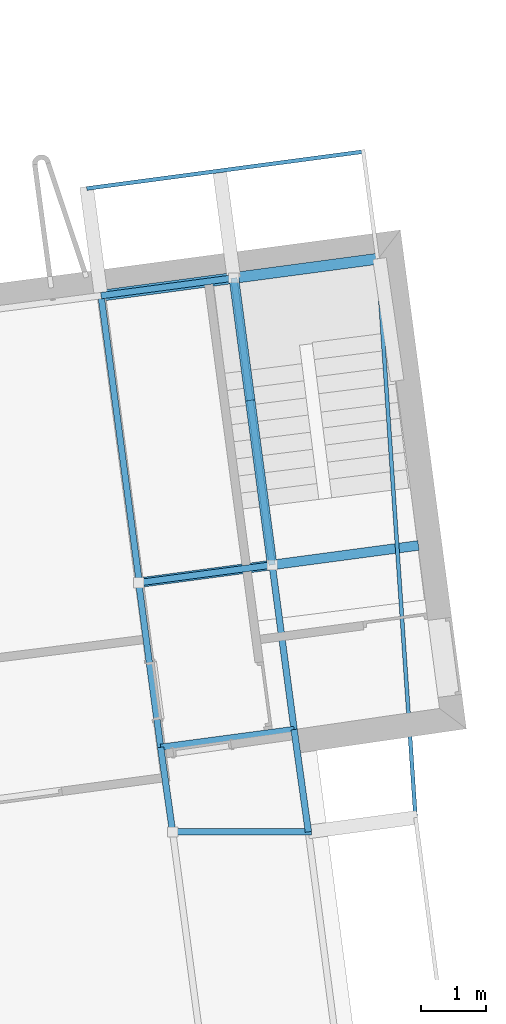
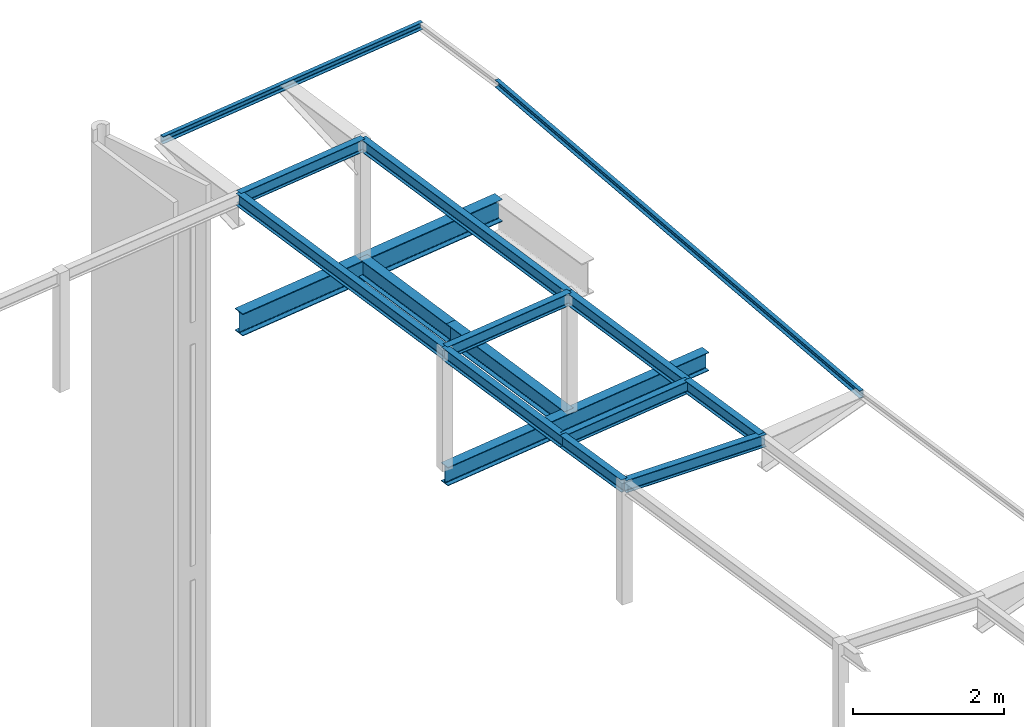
# One storey, part 17 of 40: 16 beams.
"""IFC2X3 building model written with IfcOpenShell, lengths in metres."""

import ifcopenshell
import ifcopenshell.guid

model = None  # the IFC model being written
_history = None  # IfcOwnerHistory: only IFC2X3 demands one
_inside = {}  # id of a spatial element -> (the spatial element, [elements in it])
_under = {}  # id of a project, library or spatial element -> (it, [spatial elements below it])
_declared = {}  # id of a project -> (the project, [libraries it declares])
_typed = {}  # id of a type object -> (the type object, [elements of that type])
_made_of = {}  # id of a material, layer set ... -> (it, [elements and type objects made of it])


def new_model(schema):
    """Start an empty IFC model of exactly this schema.

    Asked for "IFC4X3", IfcOpenShell would pick the latest addendum, in which some entities
    have other attributes; the version numbers below select the first issue.
    IFC2X3 requires an IfcOwnerHistory on every rooted entity: one is made here for all.
    """
    global model, _history
    if schema == "IFC4X3":
        model = ifcopenshell.file(schema_version=(4, 3, 0, 0))
    else:
        model = ifcopenshell.file(schema=schema)
    _inside.clear()
    _under.clear()
    _declared.clear()
    _typed.clear()
    _made_of.clear()
    _history = None
    if model.schema == "IFC2X3":
        org = make("IfcOrganization", Name="unknown")
        user = make(
            "IfcPersonAndOrganization",
            ThePerson=make("IfcPerson", FamilyName="unknown"),
            TheOrganization=org,
        )
        app = make(
            "IfcApplication",
            ApplicationDeveloper=org,
            Version="unknown",
            ApplicationFullName="unknown",
            ApplicationIdentifier="unknown",
        )
        _history = make(
            "IfcOwnerHistory",
            OwningUser=user,
            OwningApplication=app,
            ChangeAction="ADDED",
            CreationDate=0,
        )
    return model


def make(cls, **values):
    """One entity of the class cls with the attributes given. An attribute that is None is left unset."""
    return model.create_entity(
        cls, **{name: value for name, value in values.items() if value is not None}
    )


def entity(cls, *values):
    """Any entity or typed value of the class cls, its attributes in the order of the schema. None: left unset."""
    e = model.create_entity(cls)
    for i, value in enumerate(values):
        if value is not None:
            e[i] = value
    return e


def rooted(cls, **values):
    """An entity with a GlobalId (a new one), such as an element, a storey or a relation."""
    return make(cls, GlobalId=ifcopenshell.guid.new(), OwnerHistory=_history, **values)


def si_unit(unit_type, name, prefix=None):
    """IfcSIUnit, for example si_unit("LENGTHUNIT", "METRE", prefix="MILLI")."""
    return make("IfcSIUnit", UnitType=unit_type, Prefix=prefix, Name=name)


def converted_unit(unit_type, name, factor, base, dimensions=None, offset=None):
    """IfcConversionBasedUnit, such as the inch: factor (a typed value) times the base unit."""
    return make(
        "IfcConversionBasedUnit"
        if offset is None
        else "IfcConversionBasedUnitWithOffset",
        ConversionOffset=offset,
        Dimensions=None
        if dimensions is None
        else entity("IfcDimensionalExponents", *dimensions),
        UnitType=unit_type,
        Name=name,
        ConversionFactor=make(
            "IfcMeasureWithUnit", ValueComponent=factor, UnitComponent=base
        ),
    )


def money_unit(currency):
    """IfcMonetaryUnit."""
    return make("IfcMonetaryUnit", Currency=currency)


def assignment(units):
    """IfcUnitAssignment: the units of a project."""
    return None if units is None else make("IfcUnitAssignment", Units=units)


def point(xyz):
    """IfcCartesianPoint."""
    return None if xyz is None else make("IfcCartesianPoint", Coordinates=xyz)


def direction(xyz):
    """IfcDirection."""
    return None if xyz is None else make("IfcDirection", DirectionRatios=xyz)


def frame(location, z_axis=None, x_axis=None):
    """IfcAxis2Placement3D, a coordinate frame: its origin and axes. An axis left out is left unset."""
    return make(
        "IfcAxis2Placement3D",
        Location=point(location),
        Axis=direction(z_axis),
        RefDirection=direction(x_axis),
    )


def frame_2d(location, x_axis=None):
    """IfcAxis2Placement2D, a coordinate frame in the plane: its origin and x axis."""
    return make(
        "IfcAxis2Placement2D", Location=point(location), RefDirection=direction(x_axis)
    )


def origin_with_axes():
    """The frame at (0, 0, 0) with the z axis (0, 0, 1) and the x axis (1, 0, 0) written out."""
    return frame((0.0, 0.0, 0.0), z_axis=(0.0, 0.0, 1.0), x_axis=(1.0, 0.0, 0.0))


def place(relative_to, where):
    """IfcLocalPlacement: puts the frame where relative to a parent placement (None: the world)."""
    return make(
        "IfcLocalPlacement", PlacementRelTo=relative_to, RelativePlacement=where
    )


def context(
    kind, dimensions, precision=None, world=None, true_north=None, identifier=None
):
    """IfcGeometricRepresentationContext, for example the 3D "Model" context."""
    return make(
        "IfcGeometricRepresentationContext",
        ContextIdentifier=identifier,
        ContextType=kind,
        CoordinateSpaceDimension=dimensions,
        Precision=precision,
        WorldCoordinateSystem=world,
        TrueNorth=true_north,
    )


def subcontext(parent, identifier, kind, view, scale=None):
    """IfcGeometricRepresentationSubContext, for example "Body" below "Model"."""
    return make(
        "IfcGeometricRepresentationSubContext",
        ContextIdentifier=identifier,
        ContextType=kind,
        ParentContext=parent,
        TargetScale=scale,
        TargetView=view,
    )


def project(units=None, contexts=None):
    """IfcProject with its units and contexts."""
    return rooted(
        "IfcProject",
        Name="project",
        RepresentationContexts=contexts,
        UnitsInContext=assignment(units),
    )


def spatial(cls, under=None, at=None, **own):
    """A site, building, storey or space (cls), placed at a placement, below another one or the project."""
    s = rooted(cls, ObjectPlacement=at, **own)
    if under is not None:
        _under.setdefault(under.id(), (under, []))[1].append(s)
    return s


def polyline(points):
    """IfcPolyline through the points."""
    return make("IfcPolyline", Points=[point(p) for p in points])


def circle_curve(where, radius):
    """IfcCircle in the frame where."""
    return make("IfcCircle", Position=where, Radius=radius)


def parameter(value):
    """IfcParameterValue: where a trimmed curve begins or ends, as a parameter of its basis curve."""
    return model.create_entity("IfcParameterValue", value)


def trimmed(basis, trim1, trim2, sense, master):
    """IfcTrimmedCurve: the piece of a basis curve between two trims."""
    return make(
        "IfcTrimmedCurve",
        BasisCurve=basis,
        Trim1=trim1,
        Trim2=trim2,
        SenseAgreement=sense,
        MasterRepresentation=master,
    )


def segment(curve, same_sense, transition):
    """IfcCompositeCurveSegment."""
    return make(
        "IfcCompositeCurveSegment",
        Transition=transition,
        SameSense=same_sense,
        ParentCurve=curve,
    )


def composite_curve(segments, self_intersect=None):
    """IfcCompositeCurve: segments joined end to end."""
    return make("IfcCompositeCurve", Segments=segments, SelfIntersect=self_intersect)


def outline(outer, holes=None, kind="AREA"):
    """IfcArbitraryClosedProfileDef: a profile drawn as a closed curve; with holes, ...WithVoids."""
    if holes is None:
        return make("IfcArbitraryClosedProfileDef", ProfileType=kind, OuterCurve=outer)
    return make(
        "IfcArbitraryProfileDefWithVoids",
        ProfileType=kind,
        OuterCurve=outer,
        InnerCurves=holes,
    )


def extrude(swept, where, along, depth):
    """IfcExtrudedAreaSolid: the profile swept, set in the frame where, extruded along a direction by depth."""
    return make(
        "IfcExtrudedAreaSolid",
        SweptArea=swept,
        Position=where,
        ExtrudedDirection=direction(along),
        Depth=depth,
    )


def shape(context_of_items, identifier, shape_type, items):
    """IfcShapeRepresentation: the items that make up one representation, for example the "Body"."""
    return make(
        "IfcShapeRepresentation",
        ContextOfItems=context_of_items,
        RepresentationIdentifier=identifier,
        RepresentationType=shape_type,
        Items=items,
    )


def material(Name=None, Category=None):
    """IfcMaterial."""
    return make("IfcMaterial", Name=Name, Category=Category)


def made_of(thing, what):
    """Note that an element or type object is made of a material, layer set ...; save() writes the relation."""
    if what is not None:
        _made_of.setdefault(what.id(), (what, []))[1].append(thing)
    return thing


def type_object(cls, material=None, **own):
    """A type object (cls), such as IfcWallType, which elements share."""
    return made_of(rooted(cls, **own), material)


def element(
    cls,
    number,
    at=None,
    inside=None,
    cuts=None,
    type_object=None,
    material=None,
    context=None,
    identifier="Body",
    shape_type=None,
    held_by="IfcProductDefinitionShape",
    body=None,
    shapes=None,
    **own,
):
    """One element of the class cls, such as IfcWall. Its Tag is "e" and its number.

    at: its placement. inside: the storey or other place that contains it. cuts: it is an
    opening in that element (IfcRelVoidsElement). A single representation is given by context,
    identifier, shape_type and body (its items); several are given by shapes. held_by: the class
    of the entity that holds the representations. save() writes the other relations.
    """
    e = rooted(cls, Tag="e%d" % number, ObjectPlacement=at, **own)
    if body is not None:
        shapes = [shape(context, identifier, shape_type, body)]
    if shapes is not None:
        e.Representation = make(held_by, Representations=shapes)
    if inside is not None:
        _inside.setdefault(inside.id(), (inside, []))[1].append(e)
    if cuts is not None:
        rooted(
            "IfcRelVoidsElement", RelatingBuildingElement=cuts, RelatedOpeningElement=e
        )
    if type_object is not None:
        _typed.setdefault(type_object.id(), (type_object, []))[1].append(e)
    return made_of(e, material)


def aggregate(whole, parts):
    """IfcRelAggregates: a whole, such as a stair, and the parts it consists of."""
    return rooted("IfcRelAggregates", RelatingObject=whole, RelatedObjects=parts)


def save(model, path):
    """Write the relations noted so far, then the file.

    IfcRelAggregates (storeys below a building ...), IfcRelContainedInSpatialStructure (elements
    in a storey), IfcRelDefinesByType, IfcRelAssociatesMaterial and IfcRelDeclares: one each for
    every whole, place, type object, material and project.
    """
    for whole, parts in _under.values():
        aggregate(whole, parts)
    for where, things in _inside.values():
        rooted(
            "IfcRelContainedInSpatialStructure",
            RelatedElements=things,
            RelatingStructure=where,
        )
    for kind, things in _typed.values():
        rooted("IfcRelDefinesByType", RelatedObjects=things, RelatingType=kind)
    for what, things in _made_of.values():
        rooted("IfcRelAssociatesMaterial", RelatedObjects=things, RelatingMaterial=what)
    for by, libraries in _declared.values():
        rooted("IfcRelDeclares", RelatingContext=by, RelatedDefinitions=libraries)
    model.write(path)


model = new_model("IFC2X3")

# Units and contexts
model_context = context("Model", 3, precision=1e-05, world=origin_with_axes(), true_north=direction((0.0, 1.0)))
body_context = subcontext(model_context, "Body", "Model", "MODEL_VIEW")
ifc_project = project(units=[si_unit("LENGTHUNIT", "METRE"), si_unit("AREAUNIT", "SQUARE_METRE"), si_unit("VOLUMEUNIT", "CUBIC_METRE"), converted_unit("PLANEANGLEUNIT", "DEGREE", entity("IfcPlaneAngleMeasure", 0.0174532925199), si_unit("PLANEANGLEUNIT", "RADIAN"), dimensions=[0, 0, 0, 0, 0, 0, 0]), si_unit("SOLIDANGLEUNIT", "STERADIAN"), money_unit("EUR"), converted_unit("TIMEUNIT", "Year", entity("IfcTimeMeasure", 31556926.0), si_unit("TIMEUNIT", "SECOND"), dimensions=[0, 0, 0, 0, 0, 0, 0]), si_unit("MASSUNIT", "GRAM"), si_unit("THERMODYNAMICTEMPERATUREUNIT", "DEGREE_CELSIUS"), si_unit("LUMINOUSINTENSITYUNIT", "LUMEN")], contexts=[model_context])

# Site, building, storey
site_placement = place(None, origin_with_axes())
site = spatial("IfcSite", under=ifc_project, at=site_placement, Name="Undefined", CompositionType="ELEMENT")
building_placement = place(site_placement, origin_with_axes())
building = spatial("IfcBuilding", under=site, at=building_placement, Name="Undefined", CompositionType="ELEMENT")
storey_placement = place(building_placement, origin_with_axes())
storey = spatial("IfcBuildingStorey", under=building, at=storey_placement, Name="Rez de chauss\x8ee", CompositionType="ELEMENT", Elevation=0.0)

# Beams
ifc_material = material(Name="STEEL/S235JRG2 3386696625")
beam_type_1 = type_object("IfcBeamType", Name="IPE200", PredefinedType="NOTDEFINED")
beam_1_placement = place(storey_placement, frame((62.706684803, 26.886811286, 19.025), z_axis=(0.0, 0.0, 1.0), x_axis=(0.132256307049, -0.991215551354, 0.0)))
element("IfcBeam", 1, at=beam_1_placement, inside=storey, type_object=beam_type_1, material=ifc_material, Name="Poutre", ObjectType="BEAM", context=body_context, shape_type="SweptSolid", body=[
    extrude(outline(composite_curve([segment(polyline([(0.05, -0.1), (0.05, -0.0915), (0.0147999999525, -0.0915)]), True, "CONTINUOUS"), segment(trimmed(circle_curve(frame_2d((0.0147999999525, -0.0795), x_axis=(-1.0, 0.0)), 0.012), [point((0.0147999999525, -0.0915)), parameter(90.0)], [point((0.0027999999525, -0.0795)), parameter(0.0)], False, "CARTESIAN"), True, "CONTINUOUS"), segment(polyline([(0.0027999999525, -0.0795), (0.0027999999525, 0.0795)]), True, "CONTINUOUS"), segment(trimmed(circle_curve(frame_2d((0.0147999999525, 0.0795), x_axis=(0.0, 1.0)), 0.012), [point((0.0027999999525, 0.0795)), parameter(90.0)], [point((0.0147999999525, 0.0915)), parameter(0.0)], False, "CARTESIAN"), True, "CONTINUOUS"), segment(polyline([(0.0147999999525, 0.0915), (0.05, 0.0915), (0.05, 0.1), (-0.05, 0.1), (-0.05, 0.0915), (-0.0147999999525, 0.0915)]), True, "CONTINUOUS"), segment(trimmed(circle_curve(frame_2d((-0.0147999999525, 0.0795), x_axis=(1.0, 0.0)), 0.012), [point((-0.0147999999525, 0.0915)), parameter(90.0)], [point((-0.0027999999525, 0.0795)), parameter(0.0)], False, "CARTESIAN"), True, "CONTINUOUS"), segment(polyline([(-0.0027999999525, 0.0795), (-0.0027999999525, -0.0795)]), True, "CONTINUOUS"), segment(trimmed(circle_curve(frame_2d((-0.0147999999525, -0.0795), x_axis=(0.0, -1.0)), 0.012), [point((-0.0027999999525, -0.0795)), parameter(90.0)], [point((-0.0147999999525, -0.0915)), parameter(0.0)], False, "CARTESIAN"), True, "CONTINUOUS"), segment(polyline([(-0.0147999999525, -0.0915), (-0.05, -0.0915), (-0.05, -0.1), (0.05, -0.1)]), True, "CONTINUOUS")], self_intersect=False)), frame((0.0, 2.07, 0.0), z_axis=(0.0, -1.0, 0.0), x_axis=(1.0, 0.0, 0.0)), (0.0, 0.0, 1.0), 2.07),
])
beam_2_placement = place(storey_placement, frame((65.3501723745, 22.7262187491, 19.025), z_axis=(0.0, 0.0, 1.0), x_axis=(-0.991215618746, -0.132255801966, 0.0)))
element("IfcBeam", 2, at=beam_2_placement, inside=storey, type_object=beam_type_1, material=ifc_material, Name="Poutre", ObjectType="BEAM", context=body_context, shape_type="SweptSolid", body=[
    extrude(outline(composite_curve([segment(polyline([(0.05, -0.1), (0.05, -0.0915), (0.0147999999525, -0.0915)]), True, "CONTINUOUS"), segment(trimmed(circle_curve(frame_2d((0.0147999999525, -0.0795), x_axis=(-1.0, 0.0)), 0.012), [point((0.0147999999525, -0.0915)), parameter(90.0)], [point((0.0027999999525, -0.0795)), parameter(0.0)], False, "CARTESIAN"), True, "CONTINUOUS"), segment(polyline([(0.0027999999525, -0.0795), (0.0027999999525, 0.0795)]), True, "CONTINUOUS"), segment(trimmed(circle_curve(frame_2d((0.0147999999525, 0.0795), x_axis=(0.0, 1.0)), 0.012), [point((0.0027999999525, 0.0795)), parameter(90.0)], [point((0.0147999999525, 0.0915)), parameter(0.0)], False, "CARTESIAN"), True, "CONTINUOUS"), segment(polyline([(0.0147999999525, 0.0915), (0.05, 0.0915), (0.05, 0.1), (-0.05, 0.1), (-0.05, 0.0915), (-0.0147999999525, 0.0915)]), True, "CONTINUOUS"), segment(trimmed(circle_curve(frame_2d((-0.0147999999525, 0.0795), x_axis=(1.0, 0.0)), 0.012), [point((-0.0147999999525, 0.0915)), parameter(90.0)], [point((-0.0027999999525, 0.0795)), parameter(0.0)], False, "CARTESIAN"), True, "CONTINUOUS"), segment(polyline([(-0.0027999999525, 0.0795), (-0.0027999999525, -0.0795)]), True, "CONTINUOUS"), segment(trimmed(circle_curve(frame_2d((-0.0147999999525, -0.0795), x_axis=(0.0, -1.0)), 0.012), [point((-0.0027999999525, -0.0795)), parameter(90.0)], [point((-0.0147999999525, -0.0915)), parameter(0.0)], False, "CARTESIAN"), True, "CONTINUOUS"), segment(polyline([(-0.0147999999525, -0.0915), (-0.05, -0.0915), (-0.05, -0.1), (0.05, -0.1)]), True, "CONTINUOUS")], self_intersect=False)), frame((0.0, 2.56533742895, 0.0), z_axis=(0.0, -1.0, 0.0), x_axis=(1.0, 0.0, 0.0)), (0.0, 0.0, 1.0), 2.56533742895),
])
beam_3_placement = place(storey_placement, frame((63.8122512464, 18.6009907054, 19.025), z_axis=(0.0, 0.0, 1.0), x_axis=(0.000142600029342, -0.999999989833, 0.0)))
element("IfcBeam", 3, at=beam_3_placement, inside=storey, type_object=beam_type_1, material=ifc_material, Name="Poutre", ObjectType="BEAM", context=body_context, shape_type="SweptSolid", body=[
    extrude(outline(composite_curve([segment(polyline([(0.05, -0.1), (0.05, -0.0915), (0.0147999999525, -0.0915)]), True, "CONTINUOUS"), segment(trimmed(circle_curve(frame_2d((0.0147999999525, -0.0795), x_axis=(-1.0, 0.0)), 0.012), [point((0.0147999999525, -0.0915)), parameter(90.0)], [point((0.0027999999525, -0.0795)), parameter(0.0)], False, "CARTESIAN"), True, "CONTINUOUS"), segment(polyline([(0.0027999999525, -0.0795), (0.0027999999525, 0.0795)]), True, "CONTINUOUS"), segment(trimmed(circle_curve(frame_2d((0.0147999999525, 0.0795), x_axis=(0.0, 1.0)), 0.012), [point((0.0027999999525, 0.0795)), parameter(90.0)], [point((0.0147999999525, 0.0915)), parameter(0.0)], False, "CARTESIAN"), True, "CONTINUOUS"), segment(polyline([(0.0147999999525, 0.0915), (0.05, 0.0915), (0.05, 0.1), (-0.05, 0.1), (-0.05, 0.0915), (-0.0147999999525, 0.0915)]), True, "CONTINUOUS"), segment(trimmed(circle_curve(frame_2d((-0.0147999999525, 0.0795), x_axis=(1.0, 0.0)), 0.012), [point((-0.0147999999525, 0.0915)), parameter(90.0)], [point((-0.0027999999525, 0.0795)), parameter(0.0)], False, "CARTESIAN"), True, "CONTINUOUS"), segment(polyline([(-0.0027999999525, 0.0795), (-0.0027999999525, -0.0795)]), True, "CONTINUOUS"), segment(trimmed(circle_curve(frame_2d((-0.0147999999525, -0.0795), x_axis=(0.0, -1.0)), 0.012), [point((-0.0027999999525, -0.0795)), parameter(90.0)], [point((-0.0147999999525, -0.0915)), parameter(0.0)], False, "CARTESIAN"), True, "CONTINUOUS"), segment(polyline([(-0.0147999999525, -0.0915), (-0.05, -0.0915), (-0.05, -0.1), (0.05, -0.1)]), True, "CONTINUOUS")], self_intersect=False)), frame((0.0, 2.14601857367, 0.0), z_axis=(0.0, -1.0, 0.0), x_axis=(1.0, 0.0, 0.0)), (0.0, 0.0, 1.0), 2.14601857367),
])
beam_4_placement = place(storey_placement, frame((63.2983562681, 22.4524475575, 19.025), z_axis=(0.0, 0.0, 1.0), x_axis=(0.132256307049, -0.991215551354, 0.0)))
element("IfcBeam", 4, at=beam_4_placement, inside=storey, type_object=beam_type_1, material=ifc_material, Name="Poutre", ObjectType="BEAM", context=body_context, shape_type="SweptSolid", body=[
    extrude(outline(composite_curve([segment(polyline([(0.05, -0.1), (0.05, -0.0915), (0.0147999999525, -0.0915)]), True, "CONTINUOUS"), segment(trimmed(circle_curve(frame_2d((0.0147999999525, -0.0795), x_axis=(-1.0, 0.0)), 0.012), [point((0.0147999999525, -0.0915)), parameter(90.0)], [point((0.0027999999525, -0.0795)), parameter(0.0)], False, "CARTESIAN"), True, "CONTINUOUS"), segment(polyline([(0.0027999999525, -0.0795), (0.0027999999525, 0.0795)]), True, "CONTINUOUS"), segment(trimmed(circle_curve(frame_2d((0.0147999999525, 0.0795), x_axis=(0.0, 1.0)), 0.012), [point((0.0027999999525, 0.0795)), parameter(90.0)], [point((0.0147999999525, 0.0915)), parameter(0.0)], False, "CARTESIAN"), True, "CONTINUOUS"), segment(polyline([(0.0147999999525, 0.0915), (0.05, 0.0915), (0.05, 0.1), (-0.05, 0.1), (-0.05, 0.0915), (-0.0147999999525, 0.0915)]), True, "CONTINUOUS"), segment(trimmed(circle_curve(frame_2d((-0.0147999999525, 0.0795), x_axis=(1.0, 0.0)), 0.012), [point((-0.0147999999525, 0.0915)), parameter(90.0)], [point((-0.0027999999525, 0.0795)), parameter(0.0)], False, "CARTESIAN"), True, "CONTINUOUS"), segment(polyline([(-0.0027999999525, 0.0795), (-0.0027999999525, -0.0795)]), True, "CONTINUOUS"), segment(trimmed(circle_curve(frame_2d((-0.0147999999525, -0.0795), x_axis=(0.0, -1.0)), 0.012), [point((-0.0027999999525, -0.0795)), parameter(90.0)], [point((-0.0147999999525, -0.0915)), parameter(0.0)], False, "CARTESIAN"), True, "CONTINUOUS"), segment(polyline([(-0.0147999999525, -0.0915), (-0.05, -0.0915), (-0.05, -0.1), (0.05, -0.1)]), True, "CONTINUOUS")], self_intersect=False)), frame((0.0, 2.07, 0.0), z_axis=(0.0, -1.0, 0.0), x_axis=(1.0, 0.0, 0.0)), (0.0, 0.0, 1.0), 2.07),
])
for number, where, z_axis, x_axis, name in (
    (5, (64.7585009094, 27.1605824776, 19.025), (0.0, 0.0, 1.0), (-0.991215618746, -0.132255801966, 0.0), "Poutre"),
    (6, (62.706684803, 26.886811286, 19.025), (0.0, 0.0, 1.0), (-0.991215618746, -0.132255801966, 0.0), "Poutre"),
):
    element("IfcBeam", number, at=place(storey_placement, frame(where, z_axis=z_axis, x_axis=x_axis)), inside=storey, type_object=beam_type_1, material=ifc_material, Name=name, ObjectType="BEAM", context=body_context, shape_type="SweptSolid", body=[
        extrude(outline(composite_curve([segment(polyline([(0.05, -0.1), (0.05, -0.0915), (0.0147999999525, -0.0915)]), True, "CONTINUOUS"), segment(trimmed(circle_curve(frame_2d((0.0147999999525, -0.0795), x_axis=(-1.0, 0.0)), 0.012), [point((0.0147999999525, -0.0915)), parameter(90.0)], [point((0.0027999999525, -0.0795)), parameter(0.0)], False, "CARTESIAN"), True, "CONTINUOUS"), segment(polyline([(0.0027999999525, -0.0795), (0.0027999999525, 0.0795)]), True, "CONTINUOUS"), segment(trimmed(circle_curve(frame_2d((0.0147999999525, 0.0795), x_axis=(0.0, 1.0)), 0.012), [point((0.0027999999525, 0.0795)), parameter(90.0)], [point((0.0147999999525, 0.0915)), parameter(0.0)], False, "CARTESIAN"), True, "CONTINUOUS"), segment(polyline([(0.0147999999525, 0.0915), (0.05, 0.0915), (0.05, 0.1), (-0.05, 0.1), (-0.05, 0.0915), (-0.0147999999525, 0.0915)]), True, "CONTINUOUS"), segment(trimmed(circle_curve(frame_2d((-0.0147999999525, 0.0795), x_axis=(1.0, 0.0)), 0.012), [point((-0.0147999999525, 0.0915)), parameter(90.0)], [point((-0.0027999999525, 0.0795)), parameter(0.0)], False, "CARTESIAN"), True, "CONTINUOUS"), segment(polyline([(-0.0027999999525, 0.0795), (-0.0027999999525, -0.0795)]), True, "CONTINUOUS"), segment(trimmed(circle_curve(frame_2d((-0.0147999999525, -0.0795), x_axis=(0.0, -1.0)), 0.012), [point((-0.0027999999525, -0.0795)), parameter(90.0)], [point((-0.0147999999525, -0.0915)), parameter(0.0)], False, "CARTESIAN"), True, "CONTINUOUS"), segment(polyline([(-0.0147999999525, -0.0915), (-0.05, -0.0915), (-0.05, -0.1), (0.05, -0.1)]), True, "CONTINUOUS")], self_intersect=False)), frame((0.0, 4.47366257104, 0.0), z_axis=(0.0, -1.0, 0.0), x_axis=(1.0, 0.0, 0.0)), (0.0, 0.0, 1.0), 4.47366257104),
    ])
beam_5_placement = place(storey_placement, frame((63.8122512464, 18.6009907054, 19.025), z_axis=(0.0, 0.0, 1.0), x_axis=(0.990148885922, 0.140018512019, 0.0)))
element("IfcBeam", 7, at=beam_5_placement, inside=storey, type_object=beam_type_1, material=ifc_material, Name="Poutre", ObjectType="BEAM", context=body_context, shape_type="SweptSolid", body=[
    extrude(outline(composite_curve([segment(polyline([(0.05, -0.1), (0.05, -0.0915), (0.0147999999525, -0.0915)]), True, "CONTINUOUS"), segment(trimmed(circle_curve(frame_2d((0.0147999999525, -0.0795), x_axis=(-1.0, 0.0)), 0.012), [point((0.0147999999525, -0.0915)), parameter(90.0)], [point((0.0027999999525, -0.0795)), parameter(0.0)], False, "CARTESIAN"), True, "CONTINUOUS"), segment(polyline([(0.0027999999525, -0.0795), (0.0027999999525, 0.0795)]), True, "CONTINUOUS"), segment(trimmed(circle_curve(frame_2d((0.0147999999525, 0.0795), x_axis=(0.0, 1.0)), 0.012), [point((0.0027999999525, 0.0795)), parameter(90.0)], [point((0.0147999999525, 0.0915)), parameter(0.0)], False, "CARTESIAN"), True, "CONTINUOUS"), segment(polyline([(0.0147999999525, 0.0915), (0.05, 0.0915), (0.05, 0.1), (-0.05, 0.1), (-0.05, 0.0915), (-0.0147999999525, 0.0915)]), True, "CONTINUOUS"), segment(trimmed(circle_curve(frame_2d((-0.0147999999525, 0.0795), x_axis=(1.0, 0.0)), 0.012), [point((-0.0147999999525, 0.0915)), parameter(90.0)], [point((-0.0027999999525, 0.0795)), parameter(0.0)], False, "CARTESIAN"), True, "CONTINUOUS"), segment(polyline([(-0.0027999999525, 0.0795), (-0.0027999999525, -0.0795)]), True, "CONTINUOUS"), segment(trimmed(circle_curve(frame_2d((-0.0147999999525, -0.0795), x_axis=(0.0, -1.0)), 0.012), [point((-0.0027999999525, -0.0795)), parameter(90.0)], [point((-0.0147999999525, -0.0915)), parameter(0.0)], False, "CARTESIAN"), True, "CONTINUOUS"), segment(polyline([(-0.0147999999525, -0.0915), (-0.05, -0.0915), (-0.05, -0.1), (0.05, -0.1)]), True, "CONTINUOUS")], self_intersect=False)), frame((0.0, 1.32029290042, 0.0), z_axis=(0.0, -1.0, 0.0), x_axis=(1.0, 0.0, 0.0)), (0.0, 0.0, 1.0), 1.32029290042),
])
beam_6_placement = place(storey_placement, frame((63.6273857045, 19.9082772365, 19.025), z_axis=(0.0, 0.0, 1.0), x_axis=(0.132256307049, -0.991215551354, 0.0)))
element("IfcBeam", 8, at=beam_6_placement, inside=storey, type_object=beam_type_1, material=ifc_material, Name="Poutre", ObjectType="BEAM", context=body_context, shape_type="SweptSolid", body=[
    extrude(outline(composite_curve([segment(polyline([(0.05, -0.1), (0.05, -0.0915), (0.0147999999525, -0.0915)]), True, "CONTINUOUS"), segment(trimmed(circle_curve(frame_2d((0.0147999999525, -0.0795), x_axis=(-1.0, 0.0)), 0.012), [point((0.0147999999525, -0.0915)), parameter(90.0)], [point((0.0027999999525, -0.0795)), parameter(0.0)], False, "CARTESIAN"), True, "CONTINUOUS"), segment(polyline([(0.0027999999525, -0.0795), (0.0027999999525, 0.0795)]), True, "CONTINUOUS"), segment(trimmed(circle_curve(frame_2d((0.0147999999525, 0.0795), x_axis=(0.0, 1.0)), 0.012), [point((0.0027999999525, 0.0795)), parameter(90.0)], [point((0.0147999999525, 0.0915)), parameter(0.0)], False, "CARTESIAN"), True, "CONTINUOUS"), segment(polyline([(0.0147999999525, 0.0915), (0.05, 0.0915), (0.05, 0.1), (-0.05, 0.1), (-0.05, 0.0915), (-0.0147999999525, 0.0915)]), True, "CONTINUOUS"), segment(trimmed(circle_curve(frame_2d((-0.0147999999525, 0.0795), x_axis=(1.0, 0.0)), 0.012), [point((-0.0147999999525, 0.0915)), parameter(90.0)], [point((-0.0027999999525, 0.0795)), parameter(0.0)], False, "CARTESIAN"), True, "CONTINUOUS"), segment(polyline([(-0.0027999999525, 0.0795), (-0.0027999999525, -0.0795)]), True, "CONTINUOUS"), segment(trimmed(circle_curve(frame_2d((-0.0147999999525, -0.0795), x_axis=(0.0, -1.0)), 0.012), [point((-0.0027999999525, -0.0795)), parameter(90.0)], [point((-0.0147999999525, -0.0915)), parameter(0.0)], False, "CARTESIAN"), True, "CONTINUOUS"), segment(polyline([(-0.0147999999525, -0.0915), (-0.05, -0.0915), (-0.05, -0.1), (0.05, -0.1)]), True, "CONTINUOUS")], self_intersect=False)), frame((0.0, 2.08034427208, 0.0), z_axis=(0.0, -1.0, 0.0), x_axis=(1.0, 0.0, 0.0)), (0.0, 0.0, 1.0), 2.08034427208),
])
beam_7_placement = place(storey_placement, frame((63.2881028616, 22.4510794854, 19.025), z_axis=(0.0, 0.0, 1.0), x_axis=(-0.991215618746, -0.132255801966, 0.0)))
element("IfcBeam", 9, at=beam_7_placement, inside=storey, type_object=beam_type_1, material=ifc_material, Name="Poutre", ObjectType="BEAM", context=body_context, shape_type="SweptSolid", body=[
    extrude(outline(composite_curve([segment(polyline([(0.05, -0.1), (0.05, -0.0915), (0.0147999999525, -0.0915)]), True, "CONTINUOUS"), segment(trimmed(circle_curve(frame_2d((0.0147999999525, -0.0795), x_axis=(-1.0, 0.0)), 0.012), [point((0.0147999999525, -0.0915)), parameter(90.0)], [point((0.0027999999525, -0.0795)), parameter(0.0)], False, "CARTESIAN"), True, "CONTINUOUS"), segment(polyline([(0.0027999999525, -0.0795), (0.0027999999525, 0.0795)]), True, "CONTINUOUS"), segment(trimmed(circle_curve(frame_2d((0.0147999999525, 0.0795), x_axis=(0.0, 1.0)), 0.012), [point((0.0027999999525, 0.0795)), parameter(90.0)], [point((0.0147999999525, 0.0915)), parameter(0.0)], False, "CARTESIAN"), True, "CONTINUOUS"), segment(polyline([(0.0147999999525, 0.0915), (0.05, 0.0915), (0.05, 0.1), (-0.05, 0.1), (-0.05, 0.0915), (-0.0147999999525, 0.0915)]), True, "CONTINUOUS"), segment(trimmed(circle_curve(frame_2d((-0.0147999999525, 0.0795), x_axis=(1.0, 0.0)), 0.012), [point((-0.0147999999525, 0.0915)), parameter(90.0)], [point((-0.0027999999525, 0.0795)), parameter(0.0)], False, "CARTESIAN"), True, "CONTINUOUS"), segment(polyline([(-0.0027999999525, 0.0795), (-0.0027999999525, -0.0795)]), True, "CONTINUOUS"), segment(trimmed(circle_curve(frame_2d((-0.0147999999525, -0.0795), x_axis=(0.0, -1.0)), 0.012), [point((-0.0027999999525, -0.0795)), parameter(90.0)], [point((-0.0147999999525, -0.0915)), parameter(0.0)], False, "CARTESIAN"), True, "CONTINUOUS"), segment(polyline([(-0.0147999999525, -0.0915), (-0.05, -0.0915), (-0.05, -0.1), (0.05, -0.1)]), True, "CONTINUOUS")], self_intersect=False)), frame((0.0, 2.56533742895, 0.0), z_axis=(0.0, -1.0, 0.0), x_axis=(1.0, 0.0, 0.0)), (0.0, 0.0, 1.0), 2.56533742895),
])
beam_8_placement = place(storey_placement, frame((65.6894552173, 20.1834165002, 19.025), z_axis=(0.0, 0.0, 1.0), x_axis=(-0.990375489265, -0.138406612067, 0.0)))
element("IfcBeam", 10, at=beam_8_placement, inside=storey, type_object=beam_type_1, material=ifc_material, Name="Poutre", ObjectType="BEAM", context=body_context, shape_type="SweptSolid", body=[
    extrude(outline(composite_curve([segment(polyline([(0.05, -0.1), (0.05, -0.0915), (0.0147999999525, -0.0915)]), True, "CONTINUOUS"), segment(trimmed(circle_curve(frame_2d((0.0147999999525, -0.0795), x_axis=(-1.0, 0.0)), 0.012), [point((0.0147999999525, -0.0915)), parameter(90.0)], [point((0.0027999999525, -0.0795)), parameter(0.0)], False, "CARTESIAN"), True, "CONTINUOUS"), segment(polyline([(0.0027999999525, -0.0795), (0.0027999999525, 0.0795)]), True, "CONTINUOUS"), segment(trimmed(circle_curve(frame_2d((0.0147999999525, 0.0795), x_axis=(0.0, 1.0)), 0.012), [point((0.0027999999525, 0.0795)), parameter(90.0)], [point((0.0147999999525, 0.0915)), parameter(0.0)], False, "CARTESIAN"), True, "CONTINUOUS"), segment(polyline([(0.0147999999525, 0.0915), (0.05, 0.0915), (0.05, 0.1), (-0.05, 0.1), (-0.05, 0.0915), (-0.0147999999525, 0.0915)]), True, "CONTINUOUS"), segment(trimmed(circle_curve(frame_2d((-0.0147999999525, 0.0795), x_axis=(1.0, 0.0)), 0.012), [point((-0.0147999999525, 0.0915)), parameter(90.0)], [point((-0.0027999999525, 0.0795)), parameter(0.0)], False, "CARTESIAN"), True, "CONTINUOUS"), segment(polyline([(-0.0027999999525, 0.0795), (-0.0027999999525, -0.0795)]), True, "CONTINUOUS"), segment(trimmed(circle_curve(frame_2d((-0.0147999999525, -0.0795), x_axis=(0.0, -1.0)), 0.012), [point((-0.0027999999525, -0.0795)), parameter(90.0)], [point((-0.0147999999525, -0.0915)), parameter(0.0)], False, "CARTESIAN"), True, "CONTINUOUS"), segment(polyline([(-0.0147999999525, -0.0915), (-0.05, -0.0915), (-0.05, -0.1), (0.05, -0.1)]), True, "CONTINUOUS")], self_intersect=False)), frame((0.0, 1.59750166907, 0.0), z_axis=(0.0, -1.0, 0.0), x_axis=(1.0, 0.0, 0.0)), (0.0, 0.0, 1.0), 1.59750166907),
])
beam_type_2 = type_object("IfcBeamType", Name="UPE120", PredefinedType="NOTDEFINED")
beam_9_placement = place(storey_placement, frame((62.4858162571, 28.5421411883, 19.045), z_axis=(0.0, 0.0, 1.0), x_axis=(0.132256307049, -0.991215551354, 0.0)))
element("IfcBeam", 11, at=beam_9_placement, inside=storey, type_object=beam_type_2, material=ifc_material, Name="Poutre", ObjectType="BEAM", context=body_context, shape_type="SweptSolid", body=[
    extrude(outline(composite_curve([segment(polyline([(-0.03, -0.06), (0.03, -0.06), (0.03, -0.052), (-0.013, -0.052)]), True, "CONTINUOUS"), segment(trimmed(circle_curve(frame_2d((-0.013, -0.04), x_axis=(-1.0, 0.0)), 0.012), [point((-0.013, -0.052)), parameter(90.0)], [point((-0.025, -0.04)), parameter(0.0)], False, "CARTESIAN"), True, "CONTINUOUS"), segment(polyline([(-0.025, -0.04), (-0.025, 0.04)]), True, "CONTINUOUS"), segment(trimmed(circle_curve(frame_2d((-0.013, 0.04), x_axis=(0.0, 1.0)), 0.012), [point((-0.025, 0.04)), parameter(90.0)], [point((-0.013, 0.052)), parameter(0.0)], False, "CARTESIAN"), True, "CONTINUOUS"), segment(polyline([(-0.013, 0.052), (0.03, 0.052), (0.03, 0.06), (-0.03, 0.06), (-0.03, -0.06)]), True, "CONTINUOUS")], self_intersect=False)), frame((0.0, 4.34000000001, 0.0), z_axis=(0.0, -1.0, 0.0), x_axis=(1.0, 0.0, 0.0)), (0.0, 0.0, 1.0), 4.34000000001),
])
beam_10_placement = place(storey_placement, frame((66.9786292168, 27.4587700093, 19.045), z_axis=(0.0, 0.0, 1.0), x_axis=(-0.997696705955, -0.0678327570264, 0.0)))
element("IfcBeam", 12, at=beam_10_placement, inside=storey, type_object=beam_type_2, material=ifc_material, Name="Poutre", ObjectType="BEAM", context=body_context, shape_type="SweptSolid", body=[
    extrude(outline(composite_curve([segment(polyline([(-0.03, -0.06), (0.03, -0.06), (0.03, -0.052), (-0.013, -0.052)]), True, "CONTINUOUS"), segment(trimmed(circle_curve(frame_2d((-0.013, -0.04), x_axis=(-1.0, 0.0)), 0.012), [point((-0.013, -0.052)), parameter(90.0)], [point((-0.025, -0.04)), parameter(0.0)], False, "CARTESIAN"), True, "CONTINUOUS"), segment(polyline([(-0.025, -0.04), (-0.025, 0.04)]), True, "CONTINUOUS"), segment(trimmed(circle_curve(frame_2d((-0.013, 0.04), x_axis=(0.0, 1.0)), 0.012), [point((-0.025, 0.04)), parameter(90.0)], [point((-0.013, 0.052)), parameter(0.0)], False, "CARTESIAN"), True, "CONTINUOUS"), segment(polyline([(-0.013, 0.052), (0.03, 0.052), (0.03, 0.06), (-0.03, 0.06), (-0.03, -0.06)]), True, "CONTINUOUS")], self_intersect=False)), frame((0.0, 8.65461286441, 0.0), z_axis=(0.0, -1.0, 0.0), x_axis=(1.0, 0.0, 0.0)), (0.0, 0.0, 1.0), 8.65461286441),
])
beam_type_3 = type_object("IfcBeamType", Name="IPE300", PredefinedType="NOTDEFINED")
beam_11_placement = place(storey_placement, frame((65.010898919, 25.2689506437, 17.05), z_axis=(0.0, 0.0, 1.0), x_axis=(0.991215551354, 0.132256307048, 0.0)))
element("IfcBeam", 13, at=beam_11_placement, inside=storey, type_object=beam_type_3, material=ifc_material, Name="BEAM", ObjectType="BEAM", context=body_context, shape_type="SweptSolid", body=[
    extrude(outline(composite_curve([segment(polyline([(0.075, -0.15), (0.075, -0.13930000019), (0.0185499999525, -0.13930000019)]), True, "CONTINUOUS"), segment(trimmed(circle_curve(frame_2d((0.0185499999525, -0.12430000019), x_axis=(-1.0, 0.0)), 0.015), [point((0.0185499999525, -0.13930000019)), parameter(90.0)], [point((0.0035499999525, -0.12430000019)), parameter(0.0)], False, "CARTESIAN"), True, "CONTINUOUS"), segment(polyline([(0.0035499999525, -0.12430000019), (0.0035499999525, 0.12430000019)]), True, "CONTINUOUS"), segment(trimmed(circle_curve(frame_2d((0.0185499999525, 0.12430000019), x_axis=(0.0, 1.0)), 0.015), [point((0.0035499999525, 0.12430000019)), parameter(90.0)], [point((0.0185499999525, 0.13930000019)), parameter(0.0)], False, "CARTESIAN"), True, "CONTINUOUS"), segment(polyline([(0.0185499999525, 0.13930000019), (0.075, 0.13930000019), (0.075, 0.15), (-0.075, 0.15), (-0.075, 0.13930000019), (-0.0185499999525, 0.13930000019)]), True, "CONTINUOUS"), segment(trimmed(circle_curve(frame_2d((-0.0185499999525, 0.12430000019), x_axis=(1.0, 0.0)), 0.015), [point((-0.0185499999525, 0.13930000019)), parameter(90.0)], [point((-0.0035499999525, 0.12430000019)), parameter(0.0)], False, "CARTESIAN"), True, "CONTINUOUS"), segment(polyline([(-0.0035499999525, 0.12430000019), (-0.0035499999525, -0.12430000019)]), True, "CONTINUOUS"), segment(trimmed(circle_curve(frame_2d((-0.0185499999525, -0.12430000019), x_axis=(0.0, -1.0)), 0.015), [point((-0.0035499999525, -0.12430000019)), parameter(90.0)], [point((-0.0185499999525, -0.13930000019)), parameter(0.0)], False, "CARTESIAN"), True, "CONTINUOUS"), segment(polyline([(-0.0185499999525, -0.13930000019), (-0.075, -0.13930000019), (-0.075, -0.15), (0.075, -0.15)]), True, "CONTINUOUS")], self_intersect=False)), frame((0.0, 1.90839611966, 0.0), z_axis=(0.0, -1.0, 0.0), x_axis=(1.0, 0.0, 0.0)), (0.0, 0.0, 1.0), 1.90839611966),
])
beam_12_placement = place(storey_placement, frame((65.3501723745, 22.726218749, 17.05), z_axis=(0.0, 0.0, 1.0), x_axis=(0.991215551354, 0.132256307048, 0.0)))
element("IfcBeam", 14, at=beam_12_placement, inside=storey, type_object=beam_type_3, material=ifc_material, Name="BEAM", ObjectType="BEAM", context=body_context, shape_type="SweptSolid", body=[
    extrude(outline(composite_curve([segment(polyline([(0.075, -0.15), (0.075, -0.13930000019), (0.0185499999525, -0.13930000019)]), True, "CONTINUOUS"), segment(trimmed(circle_curve(frame_2d((0.0185499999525, -0.12430000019), x_axis=(-1.0, 0.0)), 0.015), [point((0.0185499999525, -0.13930000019)), parameter(90.0)], [point((0.0035499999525, -0.12430000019)), parameter(0.0)], False, "CARTESIAN"), True, "CONTINUOUS"), segment(polyline([(0.0035499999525, -0.12430000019), (0.0035499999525, 0.12430000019)]), True, "CONTINUOUS"), segment(trimmed(circle_curve(frame_2d((0.0185499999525, 0.12430000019), x_axis=(0.0, 1.0)), 0.015), [point((0.0035499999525, 0.12430000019)), parameter(90.0)], [point((0.0185499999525, 0.13930000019)), parameter(0.0)], False, "CARTESIAN"), True, "CONTINUOUS"), segment(polyline([(0.0185499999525, 0.13930000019), (0.075, 0.13930000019), (0.075, 0.15), (-0.075, 0.15), (-0.075, 0.13930000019), (-0.0185499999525, 0.13930000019)]), True, "CONTINUOUS"), segment(trimmed(circle_curve(frame_2d((-0.0185499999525, 0.12430000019), x_axis=(1.0, 0.0)), 0.015), [point((-0.0185499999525, 0.13930000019)), parameter(90.0)], [point((-0.0035499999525, 0.12430000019)), parameter(0.0)], False, "CARTESIAN"), True, "CONTINUOUS"), segment(polyline([(-0.0035499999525, 0.12430000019), (-0.0035499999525, -0.12430000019)]), True, "CONTINUOUS"), segment(trimmed(circle_curve(frame_2d((-0.0185499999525, -0.12430000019), x_axis=(0.0, -1.0)), 0.015), [point((-0.0035499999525, -0.12430000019)), parameter(90.0)], [point((-0.0185499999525, -0.13930000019)), parameter(0.0)], False, "CARTESIAN"), True, "CONTINUOUS"), segment(polyline([(-0.0185499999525, -0.13930000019), (-0.075, -0.13930000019), (-0.075, -0.15), (0.075, -0.15)]), True, "CONTINUOUS")], self_intersect=False)), frame((0.0, 2.56526652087, 0.0), z_axis=(0.0, -1.0, 0.0), x_axis=(1.0, 0.0, 0.0)), (0.0, 0.0, 1.0), 2.56526652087),
])
beam_13_placement = place(storey_placement, frame((67.610489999, 23.0278100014, 17.05), z_axis=(0.0, 0.0, 1.0), x_axis=(-0.132256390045, 0.99121554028, 0.0)))
element("IfcBeam", 15, at=beam_13_placement, inside=storey, type_object=beam_type_3, material=ifc_material, Name="BEAM", ObjectType="BEAM", context=body_context, shape_type="SweptSolid", body=[
    extrude(outline(composite_curve([segment(polyline([(0.075, -0.15), (0.075, -0.13930000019), (0.0185499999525, -0.13930000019)]), True, "CONTINUOUS"), segment(trimmed(circle_curve(frame_2d((0.0185499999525, -0.12430000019), x_axis=(-1.0, 0.0)), 0.015), [point((0.0185499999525, -0.13930000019)), parameter(90.0)], [point((0.0035499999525, -0.12430000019)), parameter(0.0)], False, "CARTESIAN"), True, "CONTINUOUS"), segment(polyline([(0.0035499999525, -0.12430000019), (0.0035499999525, 0.12430000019)]), True, "CONTINUOUS"), segment(trimmed(circle_curve(frame_2d((0.0185499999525, 0.12430000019), x_axis=(0.0, 1.0)), 0.015), [point((0.0035499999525, 0.12430000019)), parameter(90.0)], [point((0.0185499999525, 0.13930000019)), parameter(0.0)], False, "CARTESIAN"), True, "CONTINUOUS"), segment(polyline([(0.0185499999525, 0.13930000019), (0.075, 0.13930000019), (0.075, 0.15), (-0.075, 0.15), (-0.075, 0.13930000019), (-0.0185499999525, 0.13930000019)]), True, "CONTINUOUS"), segment(trimmed(circle_curve(frame_2d((-0.0185499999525, 0.12430000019), x_axis=(1.0, 0.0)), 0.015), [point((-0.0185499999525, 0.13930000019)), parameter(90.0)], [point((-0.0035499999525, 0.12430000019)), parameter(0.0)], False, "CARTESIAN"), True, "CONTINUOUS"), segment(polyline([(-0.0035499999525, 0.12430000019), (-0.0035499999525, -0.12430000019)]), True, "CONTINUOUS"), segment(trimmed(circle_curve(frame_2d((-0.0185499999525, -0.12430000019), x_axis=(0.0, -1.0)), 0.015), [point((-0.0035499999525, -0.12430000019)), parameter(90.0)], [point((-0.0185499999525, -0.13930000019)), parameter(0.0)], False, "CARTESIAN"), True, "CONTINUOUS"), segment(polyline([(-0.0185499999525, -0.13930000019), (-0.075, -0.13930000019), (-0.075, -0.15), (0.075, -0.15)]), True, "CONTINUOUS")], self_intersect=False)), frame((0.0, 4.36069365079, 0.0), z_axis=(0.0, -1.0, 0.0), x_axis=(1.0, 0.0, 0.0)), (0.0, 0.0, 1.0), 4.36069365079),
])
beam_type_4 = type_object("IfcBeamType", Name="IPE360", PredefinedType="NOTDEFINED")
beam_14_placement = place(storey_placement, frame((62.7066848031, 26.8868112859, 17.02), z_axis=(0.0, 0.0, 1.0), x_axis=(0.132256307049, -0.991215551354, 0.0)))
element("IfcBeam", 16, at=beam_14_placement, inside=storey, type_object=beam_type_4, material=ifc_material, Name="BEAM", ObjectType="BEAM", context=body_context, shape_type="SweptSolid", body=[
    extrude(outline(composite_curve([segment(polyline([(0.085, -0.18), (0.085, -0.16730000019), (0.022, -0.16730000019)]), True, "CONTINUOUS"), segment(trimmed(circle_curve(frame_2d((0.022, -0.14930000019), x_axis=(-1.0, 0.0)), 0.018), [point((0.022, -0.16730000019)), parameter(90.0)], [point((0.004, -0.14930000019)), parameter(0.0)], False, "CARTESIAN"), True, "CONTINUOUS"), segment(polyline([(0.004, -0.14930000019), (0.004, 0.14930000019)]), True, "CONTINUOUS"), segment(trimmed(circle_curve(frame_2d((0.022, 0.14930000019), x_axis=(0.0, 1.0)), 0.018), [point((0.004, 0.14930000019)), parameter(90.0)], [point((0.022, 0.16730000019)), parameter(0.0)], False, "CARTESIAN"), True, "CONTINUOUS"), segment(polyline([(0.022, 0.16730000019), (0.085, 0.16730000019), (0.085, 0.18), (-0.085, 0.18), (-0.085, 0.16730000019), (-0.022, 0.16730000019)]), True, "CONTINUOUS"), segment(trimmed(circle_curve(frame_2d((-0.022, 0.14930000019), x_axis=(1.0, 0.0)), 0.018), [point((-0.022, 0.16730000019)), parameter(90.0)], [point((-0.004, 0.14930000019)), parameter(0.0)], False, "CARTESIAN"), True, "CONTINUOUS"), segment(polyline([(-0.004, 0.14930000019), (-0.004, -0.14930000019)]), True, "CONTINUOUS"), segment(trimmed(circle_curve(frame_2d((-0.022, -0.14930000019), x_axis=(0.0, -1.0)), 0.018), [point((-0.004, -0.14930000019)), parameter(90.0)], [point((-0.022, -0.16730000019)), parameter(0.0)], False, "CARTESIAN"), True, "CONTINUOUS"), segment(polyline([(-0.022, -0.16730000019), (-0.085, -0.16730000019), (-0.085, -0.18), (0.085, -0.18)]), True, "CONTINUOUS")], self_intersect=False)), frame((0.0, 4.33999999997, 0.0), z_axis=(0.0, -1.0, 0.0), x_axis=(1.0, 0.0, 0.0)), (0.0, 0.0, 1.0), 4.33999999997),
])

save(model, "model.ifc")
